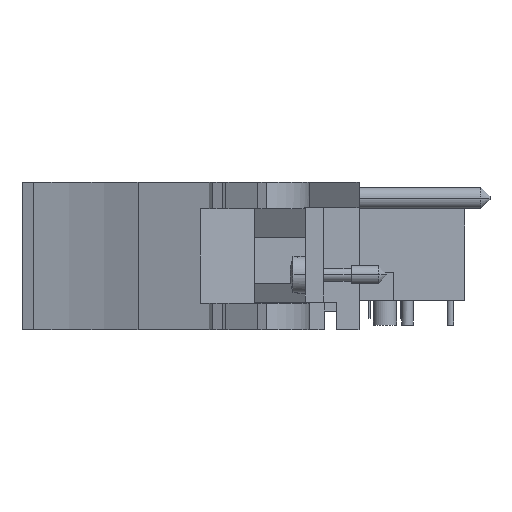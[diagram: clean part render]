
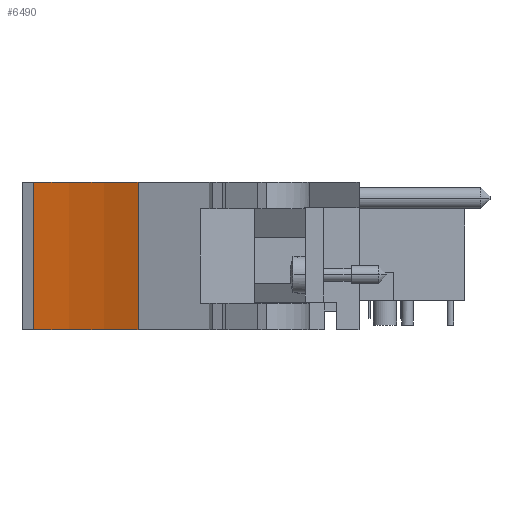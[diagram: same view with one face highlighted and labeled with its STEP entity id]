
A CAD part, front view. The second image highlights one B-rep face of the part: STEP entity #6490.
In plain terms, the highlighted cylindrical face has radius 51.46 mm (diameter 102.919 mm), a partial arc.
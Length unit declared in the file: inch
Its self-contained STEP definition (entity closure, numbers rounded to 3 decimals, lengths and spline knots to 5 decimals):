
#651=CARTESIAN_POINT('',(-1.97633,-5.96253,0.695));
#652=DIRECTION('',(0.,0.,1.));
#653=DIRECTION('',(0.435,0.9,0.));
#654=AXIS2_PLACEMENT_3D('',#651,#652,#653);
#996=CARTESIAN_POINT('',(-1.97633,-5.96253,-0.093));
#997=DIRECTION('',(0.,0.,1.));
#998=DIRECTION('',(0.435,0.9,0.));
#999=AXIS2_PLACEMENT_3D('',#996,#997,#998);
#1198=DIRECTION('',(0.,0.,1.));
#1199=VECTOR('',#1198,0.788);
#1200=CARTESIAN_POINT('',(-1.653,-3.96253,-0.093));
#1201=LINE('',#1200,#1199);
#1206=DIRECTION('',(0.,0.,1.));
#1207=VECTOR('',#1206,0.788);
#1208=CARTESIAN_POINT('',(-1.09503,-4.13829,-0.093));
#1209=LINE('',#1208,#1207);
#4175=CARTESIAN_POINT('',(-1.09503,-4.13829,-0.093));
#4176=CARTESIAN_POINT('',(-1.653,-3.96253,-0.093));
#4177=VERTEX_POINT('',#4175);
#4178=VERTEX_POINT('',#4176);
#4179=CARTESIAN_POINT('',(-1.09503,-4.13829,0.695));
#4180=CARTESIAN_POINT('',(-1.653,-3.96253,0.695));
#4181=VERTEX_POINT('',#4179);
#4182=VERTEX_POINT('',#4180);
#6478=CARTESIAN_POINT('',(-1.97633,-5.96253,0.695));
#6479=DIRECTION('',(0.,0.,1.));
#6480=DIRECTION('',(0.,1.,0.));
#6481=AXIS2_PLACEMENT_3D('',#6478,#6479,#6480);
#6482=CYLINDRICAL_SURFACE('',#6481,2.02597);
#6483=ORIENTED_EDGE('',*,*,#6206,.T.);
#6484=ORIENTED_EDGE('',*,*,#6470,.T.);
#6485=ORIENTED_EDGE('',*,*,#5755,.F.);
#6487=ORIENTED_EDGE('',*,*,#6486,.F.);
#6488=EDGE_LOOP('',(#6483,#6484,#6485,#6487));
#6489=FACE_OUTER_BOUND('',#6488,.F.);
#6490=ADVANCED_FACE('',(#6489),#6482,.F.);
#655=CIRCLE('',#654,2.02597);
#1000=CIRCLE('',#999,2.02597);
#5755=EDGE_CURVE('',#4181,#4182,#655,.T.);
#6206=EDGE_CURVE('',#4177,#4178,#1000,.T.);
#6470=EDGE_CURVE('',#4178,#4182,#1201,.T.);
#6486=EDGE_CURVE('',#4177,#4181,#1209,.T.);
